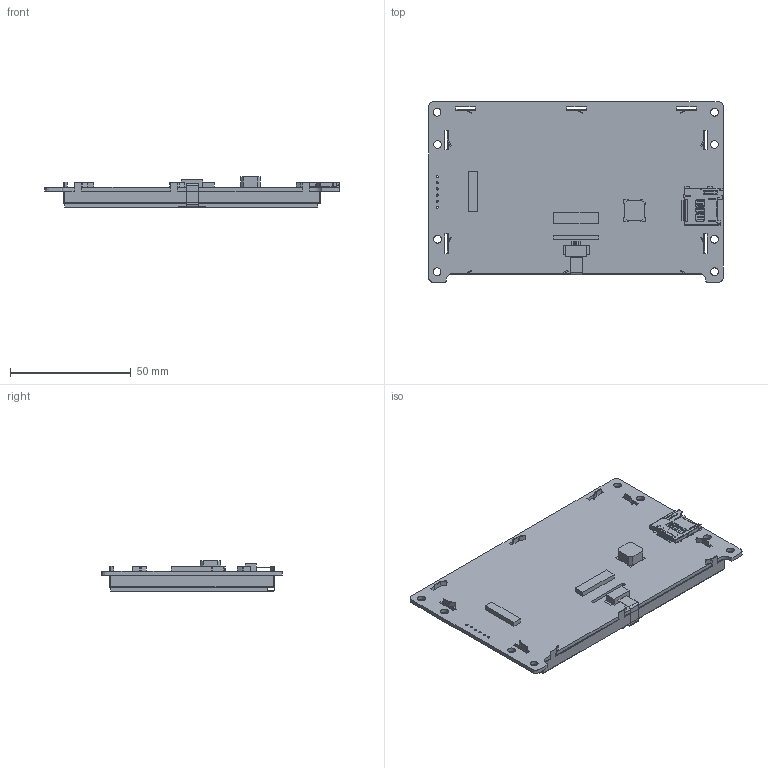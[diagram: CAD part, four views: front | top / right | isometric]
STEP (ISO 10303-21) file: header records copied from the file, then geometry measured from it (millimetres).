
FILE_DESCRIPTION(/* description */ (''),/* implementation_level */ '2;1');
FILE_NAME(/* name */ '',/* time_stamp */ '2023-05-19T14:27:58+08:00',/* author */ (''),/* organization */ (''),/* preprocessor_version */ 'ST-DEVELOPER v11',/* originating_system */ 'SIEMENS PLM Software NX 7.5',/* authorisation */ '');
FILE_SCHEMA (('AP203_CONFIGURATION_CONTROLLED_3D_DESIGN_OF_MECHANICAL_PARTS_AND_ASSEMBLIES_MIM_LF'));
Length unit declared in the file: millimetre
Products named in the file (1): SDWn043C23T
Bounding box: 121.9 x 74.7 x 12.55 mm (x, y, z)
Volume: 25883.7 mm3; surface area: 43471.9 mm2
Topology: 14 solids, 14 shells, 1230 faces, 3497 edges, 2271 vertices
Faces by surface type: plane 940, cylinder 288, cone 1, extrusion 1
Full cylindrical faces by diameter (mm): 0.889 x6, 3.2 x8
Entity records: 40636 total; most frequent: CARTESIAN_POINT 7347, ORIENTED_EDGE 6964, DIRECTION 6450, EDGE_CURVE 3482, VECTOR 2826, LINE 2825, VERTEX_POINT 2271, AXIS2_PLACEMENT_3D 1812
